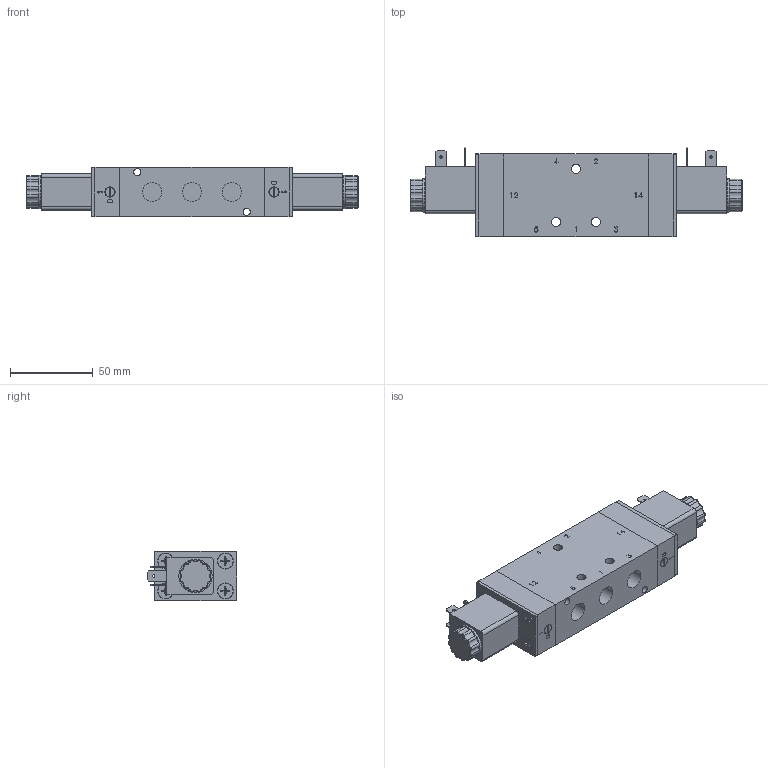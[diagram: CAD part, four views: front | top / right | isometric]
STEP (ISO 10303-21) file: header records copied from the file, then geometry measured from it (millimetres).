
FILE_DESCRIPTION (( 'STEP AP214' ), '1' );
FILE_NAME ('KMX-10-520-HN-F12_Airtec.step', '2019-01-07T15:28:53', ( '' ), ( '' ), 'SwSTEP 2.0', 'SolidWorks 2010', '' );
FILE_SCHEMA (( 'AUTOMOTIVE_DESIGN' ));
Length unit declared in the file: millimetre
Products named in the file (3): Volumenkörper3; Volumenkörper1; KMX-10-520-HN-F12_Airtec
Assembly tree (3 placements, depth 2):
  KMX-10-520-HN-F12_Airtec
    Volumenkörper1  x2
    Volumenkörper3
Bounding box: 200.2 x 54.2 x 30 mm (x, y, z)
Volume: 213178.7 mm3; surface area: 43824.7 mm2
Topology: 3 solids, 3 shells, 1043 faces, 2786 edges, 1806 vertices
Faces by surface type: plane 675, cylinder 148, torus 98, cone 94, bspline 28
Full cylindrical faces by diameter (mm): 1.5 x6, 2.459 x2, 4.3 x2, 5.5 x3, 8 x2, 8.15 x2, 9.04 x4, 9.3 x8, 11.445 x5, 15 x2, 16.6 x2, 20 x2
Entity records: 40611 total; most frequent: CARTESIAN_POINT 9658, ORIENTED_EDGE 5196, DIRECTION 4776, EDGE_CURVE 2598, VERTEX_POINT 1714, LINE 1692, VECTOR 1692, AXIS2_PLACEMENT_3D 1542
